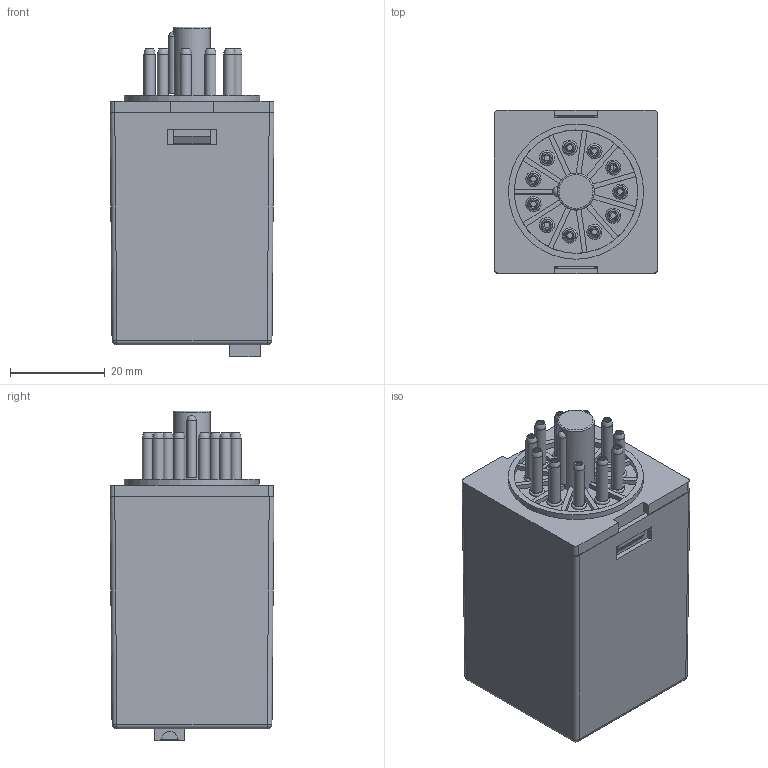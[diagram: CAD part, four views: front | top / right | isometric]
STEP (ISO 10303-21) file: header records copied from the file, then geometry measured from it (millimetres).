
FILE_DESCRIPTION((''),'2; 1');
FILE_NAME('','2026-03-27T11:07:50',(''),(''),'CST STEP Exporter V1.0','Unknown','');
FILE_SCHEMA(('CONFIG_CONTROL_DESIGN'));
Length unit declared in the file: metre
Assembly tree (17 placements, depth 2):
  (unnamed)
    (unnamed)
    (unnamed)
    (unnamed)
    (unnamed)
    (unnamed)
    (unnamed)
    (unnamed)
    (unnamed)
    (unnamed)
    (unnamed)
    (unnamed)
    (unnamed)
    (unnamed)
    (unnamed)
    (unnamed)
    (unnamed)
    (unnamed)
Bounding box: 34.55 x 34.55 x 69.55 mm (x, y, z)
Surface area: 24960.1 mm2 (no closed solid volume)
Topology: 0 solids, 20 shells, 253 faces, 691 edges, 455 vertices
Faces by surface type: plane 144, cylinder 48, torus 45, cone 11, sphere 5
Full cylindrical faces by diameter (mm): 1.85 x6, 2.35 x11, 7.8 x1, 26 x1, 28.5 x1
Entity records: 9689 total; most frequent: CARTESIAN_POINT 1307, DIRECTION 1301, ORIENTED_EDGE 1079, EDGE_CURVE 610, AXIS2_PLACEMENT_3D 462, VERTEX_POINT 455, VECTOR 377, LINE 377
